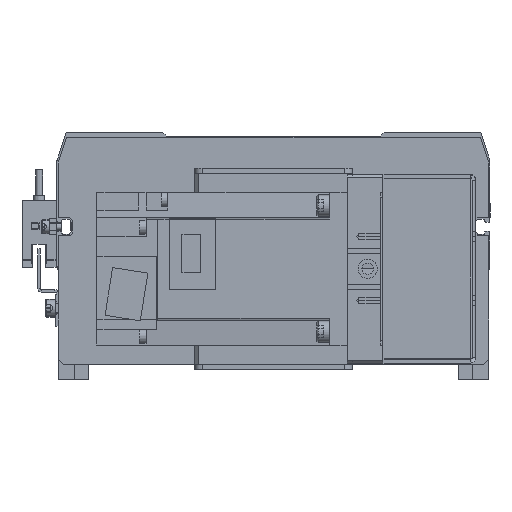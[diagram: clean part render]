
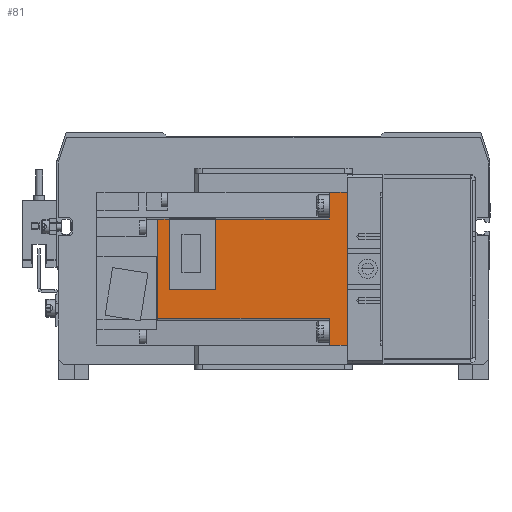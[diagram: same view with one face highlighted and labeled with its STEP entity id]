
A CAD part, front view. The second image highlights one B-rep face of the part: STEP entity #81.
In plain terms, the highlighted planar face has unit normal (0, -1, 0) as drawn and (1, 0, 0) by its records, which use the part's own axes.
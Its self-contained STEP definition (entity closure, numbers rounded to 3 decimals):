
#81 = ADVANCED_FACE ( 'NONE', ( #6358 ), #7221, .F. ) ;
#674 = LINE ( 'NONE', #12067, #17043 ) ;
#1116 = VERTEX_POINT ( 'NONE', #19406 ) ;
#1604 = VERTEX_POINT ( 'NONE', #29366 ) ;
#3392 = VECTOR ( 'NONE', #4387, 1000. ) ;
#3532 = VERTEX_POINT ( 'NONE', #5897 ) ;
#3805 = DIRECTION ( 'NONE',  ( 0., 0., 1. ) ) ;
#4387 = DIRECTION ( 'NONE',  ( 0., 1., 0. ) ) ;
#4748 = CARTESIAN_POINT ( 'NONE',  ( 30., 7., -30. ) ) ;
#4794 = DIRECTION ( 'NONE',  ( 0., 0., -1. ) ) ;
#4839 = LINE ( 'NONE', #38096, #36641 ) ;
#5514 = VECTOR ( 'NONE', #18264, 1000. ) ;
#5897 = CARTESIAN_POINT ( 'NONE',  ( 30., 51.7, -19.515 ) ) ;
#6268 = DIRECTION ( 'NONE',  ( 0., -1., 0. ) ) ;
#6301 = ORIENTED_EDGE ( 'NONE', *, *, #10929, .F. ) ;
#6358 = FACE_OUTER_BOUND ( 'NONE', #33408, .T. ) ;
#6377 = DIRECTION ( 'NONE',  ( 0., 0., -1. ) ) ;
#6805 = VERTEX_POINT ( 'NONE', #17517 ) ;
#7082 = DIRECTION ( 'NONE',  ( -1., 0., 0. ) ) ;
#7097 = VERTEX_POINT ( 'NONE', #12193 ) ;
#7221 = PLANE ( 'NONE',  #23282 ) ;
#7487 = ORIENTED_EDGE ( 'NONE', *, *, #34146, .F. ) ;
#7935 = VECTOR ( 'NONE', #6268, 1000. ) ;
#7975 = VECTOR ( 'NONE', #12737, 1000. ) ;
#8033 = ORIENTED_EDGE ( 'NONE', *, *, #14477, .F. ) ;
#8889 = EDGE_CURVE ( 'NONE', #1604, #41499, #10014, .T. ) ;
#9160 = CARTESIAN_POINT ( 'NONE',  ( 30., 74.5, 30. ) ) ;
#9448 = ORIENTED_EDGE ( 'NONE', *, *, #18060, .F. ) ;
#9576 = CARTESIAN_POINT ( 'NONE',  ( 30., 7., 30. ) ) ;
#9869 = VECTOR ( 'NONE', #40049, 1000. ) ;
#9884 = EDGE_CURVE ( 'NONE', #1116, #24680, #42065, .T. ) ;
#10014 = LINE ( 'NONE', #9576, #35172 ) ;
#10482 = ORIENTED_EDGE ( 'NONE', *, *, #19249, .F. ) ;
#10929 = EDGE_CURVE ( 'NONE', #37003, #28474, #22910, .T. ) ;
#12067 = CARTESIAN_POINT ( 'NONE',  ( 30., 74.5, -30. ) ) ;
#12193 = CARTESIAN_POINT ( 'NONE',  ( 30., 0., -30. ) ) ;
#12737 = DIRECTION ( 'NONE',  ( 0., 0., -1. ) ) ;
#13271 = CARTESIAN_POINT ( 'NONE',  ( 30., 7., 30. ) ) ;
#13304 = VECTOR ( 'NONE', #38569, 1000. ) ;
#13927 = ORIENTED_EDGE ( 'NONE', *, *, #26714, .F. ) ;
#14047 = VECTOR ( 'NONE', #6377, 1000. ) ;
#14477 = EDGE_CURVE ( 'NONE', #28474, #6805, #28329, .T. ) ;
#14541 = ORIENTED_EDGE ( 'NONE', *, *, #9884, .F. ) ;
#15615 = LINE ( 'NONE', #25359, #7935 ) ;
#15685 = ORIENTED_EDGE ( 'NONE', *, *, #41880, .F. ) ;
#16281 = VERTEX_POINT ( 'NONE', #21889 ) ;
#16509 = VECTOR ( 'NONE', #4794, 1000. ) ;
#16818 = CARTESIAN_POINT ( 'NONE',  ( 30., 74.5, 30. ) ) ;
#17043 = VECTOR ( 'NONE', #18659, 1000. ) ;
#17517 = CARTESIAN_POINT ( 'NONE',  ( 30., 51.7, 8. ) ) ;
#18060 = EDGE_CURVE ( 'NONE', #3532, #1604, #15615, .T. ) ;
#18123 = EDGE_CURVE ( 'NONE', #1116, #7097, #4839, .T. ) ;
#18264 = DIRECTION ( 'NONE',  ( 0., 0., 1. ) ) ;
#18659 = DIRECTION ( 'NONE',  ( 0., 1., 0. ) ) ;
#19249 = EDGE_CURVE ( 'NONE', #38028, #27281, #31427, .T. ) ;
#19406 = CARTESIAN_POINT ( 'NONE',  ( 30., 0., 30. ) ) ;
#20178 = CARTESIAN_POINT ( 'NONE',  ( 30., 74.5, -19.515 ) ) ;
#21651 = ORIENTED_EDGE ( 'NONE', *, *, #8889, .F. ) ;
#21889 = CARTESIAN_POINT ( 'NONE',  ( 30., 7., 19.515 ) ) ;
#22910 = LINE ( 'NONE', #31042, #5514 ) ;
#23282 = AXIS2_PLACEMENT_3D ( 'NONE', #16818, #7082, #3805 ) ;
#23771 = CARTESIAN_POINT ( 'NONE',  ( 30., 7., 30. ) ) ;
#24680 = VERTEX_POINT ( 'NONE', #23771 ) ;
#25359 = CARTESIAN_POINT ( 'NONE',  ( 30., 74.5, -19.515 ) ) ;
#25388 = ORIENTED_EDGE ( 'NONE', *, *, #34398, .T. ) ;
#25400 = EDGE_CURVE ( 'NONE', #16281, #38028, #33689, .T. ) ;
#25592 = ORIENTED_EDGE ( 'NONE', *, *, #18123, .T. ) ;
#26031 = CARTESIAN_POINT ( 'NONE',  ( 30., 51.7, 30. ) ) ;
#26714 = EDGE_CURVE ( 'NONE', #24680, #16281, #35096, .T. ) ;
#27281 = VERTEX_POINT ( 'NONE', #20178 ) ;
#27845 = CARTESIAN_POINT ( 'NONE',  ( 30., 74.5, 30. ) ) ;
#28329 = LINE ( 'NONE', #39608, #9869 ) ;
#28474 = VERTEX_POINT ( 'NONE', #34150 ) ;
#29366 = CARTESIAN_POINT ( 'NONE',  ( 30., 7., -19.515 ) ) ;
#29853 = CARTESIAN_POINT ( 'NONE',  ( 30., 74.5, -19.515 ) ) ;
#31042 = CARTESIAN_POINT ( 'NONE',  ( 30., 69.85, 30. ) ) ;
#31217 = DIRECTION ( 'NONE',  ( 0., 0., -1. ) ) ;
#31427 = LINE ( 'NONE', #27845, #16509 ) ;
#31489 = CARTESIAN_POINT ( 'NONE',  ( 30., 74.5, 19.515 ) ) ;
#32085 = LINE ( 'NONE', #26031, #7975 ) ;
#33408 = EDGE_LOOP ( 'NONE', ( #7487, #10482, #39332, #13927, #14541, #25592, #25388, #21651, #9448, #15685, #8033, #6301 ) ) ;
#33689 = LINE ( 'NONE', #34058, #3392 ) ;
#34058 = CARTESIAN_POINT ( 'NONE',  ( 30., 74.5, 19.515 ) ) ;
#34146 = EDGE_CURVE ( 'NONE', #27281, #37003, #40711, .T. ) ;
#34150 = CARTESIAN_POINT ( 'NONE',  ( 30., 69.85, 8. ) ) ;
#34398 = EDGE_CURVE ( 'NONE', #7097, #41499, #674, .T. ) ;
#35096 = LINE ( 'NONE', #13271, #14047 ) ;
#35172 = VECTOR ( 'NONE', #36103, 1000. ) ;
#35579 = VECTOR ( 'NONE', #39932, 1000. ) ;
#36103 = DIRECTION ( 'NONE',  ( 0., 0., -1. ) ) ;
#36641 = VECTOR ( 'NONE', #31217, 1000. ) ;
#37003 = VERTEX_POINT ( 'NONE', #40827 ) ;
#38028 = VERTEX_POINT ( 'NONE', #31489 ) ;
#38096 = CARTESIAN_POINT ( 'NONE',  ( 30., 0., 0. ) ) ;
#38569 = DIRECTION ( 'NONE',  ( 0., 1., 0. ) ) ;
#39332 = ORIENTED_EDGE ( 'NONE', *, *, #25400, .F. ) ;
#39608 = CARTESIAN_POINT ( 'NONE',  ( 30., 74.5, 8. ) ) ;
#39932 = DIRECTION ( 'NONE',  ( 0., -1., 0. ) ) ;
#40049 = DIRECTION ( 'NONE',  ( 0., -1., 0. ) ) ;
#40711 = LINE ( 'NONE', #29853, #35579 ) ;
#40827 = CARTESIAN_POINT ( 'NONE',  ( 30., 69.85, -19.515 ) ) ;
#41499 = VERTEX_POINT ( 'NONE', #4748 ) ;
#41880 = EDGE_CURVE ( 'NONE', #6805, #3532, #32085, .T. ) ;
#42065 = LINE ( 'NONE', #9160, #13304 ) ;
